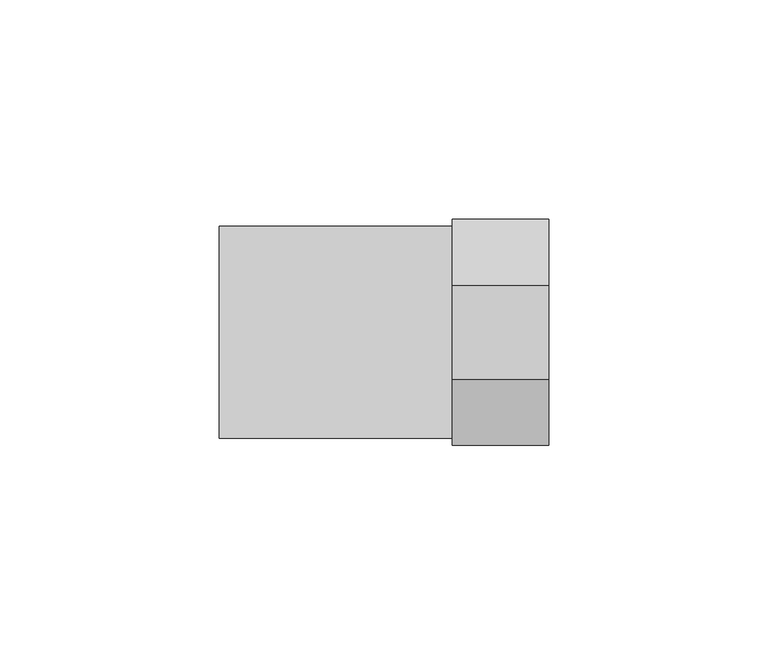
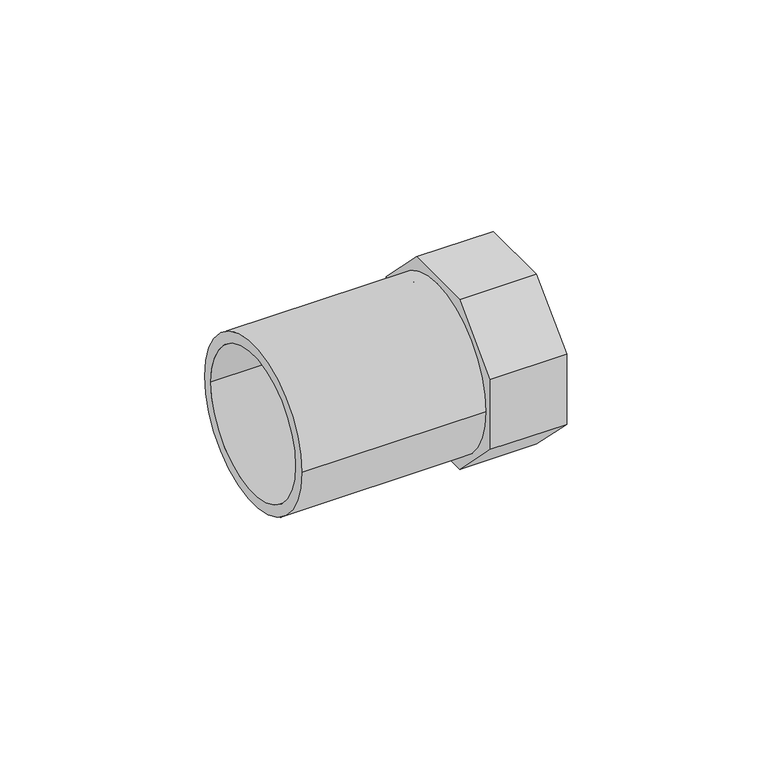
"""IFC4 building model written with IfcOpenShell, lengths in millimetres: pipe fitting geometry, VALTEC_VTi.907.I_Вставка с внутренней резьбой_Нержавеющая сталь : VTi.907.I."""

from ifc_helpers import new_model, si_unit, point, frame, origin, origin_2d, place, context, project, spatial, polyline, circle_curve, trimmed, segment, composite_curve, outline, extrude, source, transform, mapped, element, save


def pipe_fitting_49275cd4(model_context):
    return source(origin(), model_context, "Body", "SweptSolid", [
        extrude(outline(polyline([(10.6659992, 25.75), (25.75, 10.6659992), (25.75, -10.6659992), (10.6659992, -25.75), (-10.6659992, -25.75), (-25.75, -10.6659992), (-25.75, 10.6659992), (-10.6659992, 25.75), (10.6659992, 25.75)]), holes=[composite_curve([segment(trimmed(circle_curve(origin_2d(), 20.0), [point((-20.0, 0.0))], [point((20.0, 0.0))], True, "CARTESIAN"), True, "CONTINUOUS"), segment(trimmed(circle_curve(origin_2d(), 20.0), [point((20.0, 0.0))], [point((-20.0, 0.0))], True, "CARTESIAN"), True, "CONTINUOUS")], self_intersect=False)]), frame((-11.0, 0.0, 0.0), z_axis=(1.0, 0.0, 0.0), x_axis=(0.0, 1.0, 0.0)), (0.0, 0.0, 1.0), 22.0),
        extrude(outline(composite_curve([segment(trimmed(circle_curve(origin_2d(), 24.15), [point((-24.15, 0.0))], [point((24.15, 0.0))], False, "CARTESIAN"), True, "CONTINUOUS"), segment(trimmed(circle_curve(origin_2d(), 24.15), [point((24.15, 0.0))], [point((-24.15, 0.0))], False, "CARTESIAN"), True, "CONTINUOUS")], self_intersect=False), holes=[composite_curve([segment(trimmed(circle_curve(origin_2d(), 21.0), [point((-21.0, 0.0))], [point((21.0, 0.0))], True, "CARTESIAN"), True, "CONTINUOUS"), segment(trimmed(circle_curve(origin_2d(), 21.0), [point((21.0, 0.0))], [point((-21.0, 0.0))], True, "CARTESIAN"), True, "CONTINUOUS")], self_intersect=False)]), frame((-64.0, 0.0, 0.0), z_axis=(1.0, 0.0, 0.0), x_axis=(0.0, 1.0, 0.0)), (0.0, 0.0, 1.0), 53.0),
    ])


if __name__ == "__main__":
    model = new_model("IFC4")
    model_context = context("Model", 3, world=origin())
    ifc_project = project(units=[si_unit("LENGTHUNIT", "METRE", prefix="MILLI")], contexts=[model_context])
    site = spatial("IfcSite", under=ifc_project)
    building = spatial("IfcBuilding", under=site)
    placement = place(None, origin())
    pipe_fitting_shape = pipe_fitting_49275cd4(model_context)
    element("IfcPipeFitting", 1, ObjectType="VALTEC_VTi.907.I_Вставка с внутренней резьбой_Нержавеющая сталь : VTi.907.I", at=placement, inside=building, context=model_context, shape_type="MappedRepresentation", body=[
        mapped(pipe_fitting_shape, transform((0.0, 0.0, 0.0), x_axis=(1.0, 0.0, 0.0), y_axis=(0.0, 1.0, 0.0), z_axis=(0.0, 0.0, 1.0))),
    ])
    save(model, "model.ifc")
